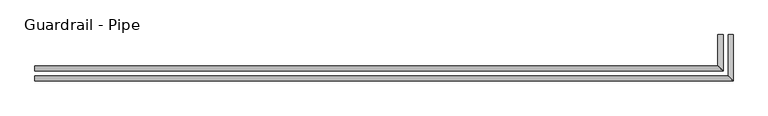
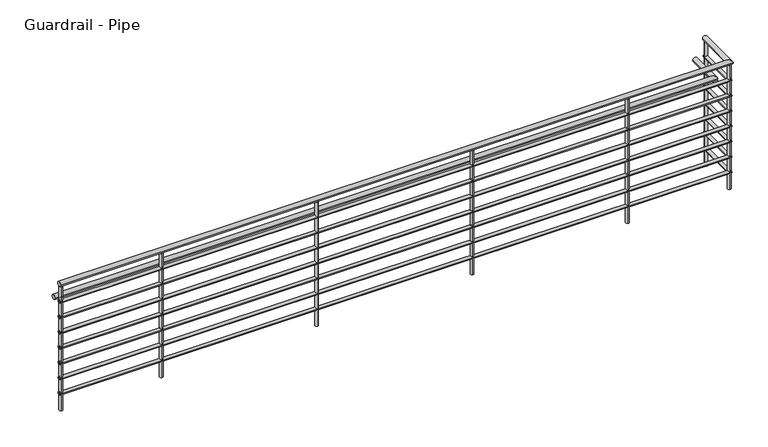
"""IFC4 building model written with IfcOpenShell, lengths in millimetres: railing geometry, Guardrail - Pipe."""

from ifc_helpers import new_model, si_unit, point, frame, frame_2d, origin, place, context, project, spatial, circle_curve, ellipse_curve, trimmed, segment, composite_curve, outline, extrude, source, transform, mapped, element, save
from ifc_brep_helpers import plane_surface, cylinder_surface, advanced_brep


def guardrail_pipe_636c1e23(model_context):
    return source(origin(), model_context, "Body", "SolidModel", [
        advanced_brep(
        [(1730.5560388, -6995.690357, 4705.35), (1730.5560388, -7033.790357, 4705.35), (6969.3060388, -6995.690357, 4705.35), (7007.4060388, -7033.790357, 4705.35), (6969.3060388, -6684.540357, 4705.35), (7007.4060388, -6684.540357, 4705.35)],
        [
            (0, 1, circle_curve(frame((1730.5560388, -7014.740357, 4705.35), z_axis=(-1.0, 0.0, 0.0), x_axis=(0.0, -1.0, 0.0)), 19.05)),
            (1, 0, circle_curve(frame((1730.5560388, -7014.740357, 4705.35), z_axis=(-1.0, 0.0, 0.0), x_axis=(0.0, -1.0, 0.0)), 19.05)),
            (0, 2),
            (2, 3, ellipse_curve(frame((6988.3560388, -7014.740357, 4705.35), z_axis=(-0.7071067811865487, -0.7071067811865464, 0.0), x_axis=(-0.7071067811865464, 0.7071067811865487, 0.0)), 26.9407684, 19.05)),
            (3, 1),
            (3, 2, ellipse_curve(frame((6988.3560388, -7014.740357, 4705.35), z_axis=(-0.7071067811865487, -0.7071067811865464, 0.0), x_axis=(-0.7071067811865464, 0.7071067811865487, 0.0)), 26.9407684, 19.05)),
            (4, 5, circle_curve(frame((6988.3560388, -6684.540357, 4705.35), z_axis=(0.0, 1.0, 0.0), x_axis=(1.0, 0.0, 0.0)), 19.05)),
            (5, 4, circle_curve(frame((6988.3560388, -6684.540357, 4705.35), z_axis=(0.0, 1.0, 0.0), x_axis=(1.0, 0.0, 0.0)), 19.05)),
            (2, 4),
            (5, 3),
        ],
        [
            plane_surface(frame((1730.5560388, -7014.740357, 4724.4), z_axis=(-1.0, 0.0, 0.0), x_axis=(0.0, 1.0, 0.0))),
            cylinder_surface(frame((1730.5560388, -7014.740357, 4705.35), z_axis=(-1.0, 0.0, 0.0), x_axis=(0.0, -1.0, 0.0)), 19.05),
            plane_surface(frame((6988.3560388, -6684.540357, 4724.4), z_axis=(0.0, 1.0, 0.0), x_axis=(0.0, 0.0, 1.0))),
            cylinder_surface(frame((6988.3560388, -7014.740357, 4705.35), z_axis=(0.0, -1.0, 0.0), x_axis=(1.0, 0.0, 0.0)), 19.05),
        ],
        [
            (0, [[1, 2]]),
            (1, [[-1, 3, 4, 5]]),
            (1, [[-2, -5, 6, -3]]),
            (2, [[7, 8]]),
            (3, [[-4, 9, -8, 10]]),
            (3, [[-6, -10, -7, -9]]),
        ],
    ),
        advanced_brep(
        [(1730.5560388, -7002.040357, 4559.3), (1730.5560388, -7027.440357, 4559.3), (6975.6560388, -7002.040357, 4559.3), (7001.0560388, -7027.440357, 4559.3), (6975.6560388, -6684.540357, 4559.3), (7001.0560388, -6684.540357, 4559.3)],
        [
            (0, 1, circle_curve(frame((1730.5560388, -7014.740357, 4559.3), z_axis=(-1.0, 0.0, 0.0), x_axis=(0.0, -1.0, 0.0)), 12.7)),
            (1, 0, circle_curve(frame((1730.5560388, -7014.740357, 4559.3), z_axis=(-1.0, 0.0, 0.0), x_axis=(0.0, -1.0, 0.0)), 12.7)),
            (0, 2),
            (2, 3, ellipse_curve(frame((6988.3560388, -7014.740357, 4559.3), z_axis=(-0.7071067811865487, -0.7071067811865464, 0.0), x_axis=(-0.7071067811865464, 0.7071067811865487, 0.0)), 17.9605122, 12.7)),
            (3, 1),
            (3, 2, ellipse_curve(frame((6988.3560388, -7014.740357, 4559.3), z_axis=(-0.7071067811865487, -0.7071067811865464, 0.0), x_axis=(-0.7071067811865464, 0.7071067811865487, 0.0)), 17.9605122, 12.7)),
            (4, 5, circle_curve(frame((6988.3560388, -6684.540357, 4559.3), z_axis=(0.0, 1.0, 0.0), x_axis=(1.0, 0.0, 0.0)), 12.7)),
            (5, 4, circle_curve(frame((6988.3560388, -6684.540357, 4559.3), z_axis=(0.0, 1.0, 0.0), x_axis=(1.0, 0.0, 0.0)), 12.7)),
            (2, 4),
            (5, 3),
        ],
        [
            plane_surface(frame((1730.5560388, -7014.740357, 4572.0), z_axis=(-1.0, 0.0, 0.0), x_axis=(0.0, 1.0, 0.0))),
            cylinder_surface(frame((1730.5560388, -7014.740357, 4559.3), z_axis=(-1.0, 0.0, 0.0), x_axis=(0.0, -1.0, 0.0)), 12.7),
            plane_surface(frame((6988.3560388, -6684.540357, 4572.0), z_axis=(0.0, 1.0, 0.0), x_axis=(0.0, 0.0, 1.0))),
            cylinder_surface(frame((6988.3560388, -7014.740357, 4559.3), z_axis=(0.0, -1.0, 0.0), x_axis=(1.0, 0.0, 0.0)), 12.7),
        ],
        [
            (0, [[1, 2]]),
            (1, [[-1, 3, 4, 5]]),
            (1, [[-2, -5, 6, -3]]),
            (2, [[7, 8]]),
            (3, [[-4, 9, -8, 10]]),
            (3, [[-6, -10, -7, -9]]),
        ],
    ),
        advanced_brep(
        [(1730.5560388, -6919.490357, 4552.95), (1730.5560388, -6957.590357, 4552.95), (6893.1060388, -6919.490357, 4552.95), (6931.2060388, -6957.590357, 4552.95), (6893.1060388, -6684.540357, 4552.95), (6931.2060388, -6684.540357, 4552.95)],
        [
            (0, 1, circle_curve(frame((1730.5560388, -6938.540357, 4552.95), z_axis=(-1.0, 0.0, 0.0), x_axis=(0.0, -1.0, 0.0)), 19.05)),
            (1, 0, circle_curve(frame((1730.5560388, -6938.540357, 4552.95), z_axis=(-1.0, 0.0, 0.0), x_axis=(0.0, -1.0, 0.0)), 19.05)),
            (0, 2),
            (2, 3, ellipse_curve(frame((6912.1560388, -6938.540357, 4552.95), z_axis=(-0.7071067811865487, -0.7071067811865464, 0.0), x_axis=(-0.7071067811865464, 0.7071067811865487, 0.0)), 26.9407684, 19.05)),
            (3, 1),
            (3, 2, ellipse_curve(frame((6912.1560388, -6938.540357, 4552.95), z_axis=(-0.7071067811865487, -0.7071067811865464, 0.0), x_axis=(-0.7071067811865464, 0.7071067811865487, 0.0)), 26.9407684, 19.05)),
            (4, 5, circle_curve(frame((6912.1560388, -6684.540357, 4552.95), z_axis=(0.0, 1.0, 0.0), x_axis=(1.0, 0.0, 0.0)), 19.05)),
            (5, 4, circle_curve(frame((6912.1560388, -6684.540357, 4552.95), z_axis=(0.0, 1.0, 0.0), x_axis=(1.0, 0.0, 0.0)), 19.05)),
            (2, 4),
            (5, 3),
        ],
        [
            plane_surface(frame((1730.5560388, -6938.540357, 4572.0), z_axis=(-1.0, 0.0, 0.0), x_axis=(0.0, 1.0, 0.0))),
            cylinder_surface(frame((1730.5560388, -6938.540357, 4552.95), z_axis=(-1.0, 0.0, 0.0), x_axis=(0.0, -1.0, 0.0)), 19.05),
            plane_surface(frame((6912.1560388, -6684.540357, 4572.0), z_axis=(0.0, 1.0, 0.0), x_axis=(0.0, 0.0, 1.0))),
            cylinder_surface(frame((6912.1560388, -6938.540357, 4552.95), z_axis=(0.0, -1.0, 0.0), x_axis=(1.0, 0.0, 0.0)), 19.05),
        ],
        [
            (0, [[1, 2]]),
            (1, [[-1, 3, 4, 5]]),
            (1, [[-2, -5, 6, -3]]),
            (2, [[7, 8]]),
            (3, [[-4, 9, -8, 10]]),
            (3, [[-6, -10, -7, -9]]),
        ],
    ),
        advanced_brep(
        [(1730.5560388, -7002.040357, 4432.3), (1730.5560388, -7027.440357, 4432.3), (6975.6560388, -7002.040357, 4432.3), (7001.0560388, -7027.440357, 4432.3), (6975.6560388, -6684.540357, 4432.3), (7001.0560388, -6684.540357, 4432.3)],
        [
            (0, 1, circle_curve(frame((1730.5560388, -7014.740357, 4432.3), z_axis=(-1.0, 0.0, 0.0), x_axis=(0.0, -1.0, 0.0)), 12.7)),
            (1, 0, circle_curve(frame((1730.5560388, -7014.740357, 4432.3), z_axis=(-1.0, 0.0, 0.0), x_axis=(0.0, -1.0, 0.0)), 12.7)),
            (0, 2),
            (2, 3, ellipse_curve(frame((6988.3560388, -7014.740357, 4432.3), z_axis=(-0.7071067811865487, -0.7071067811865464, 0.0), x_axis=(-0.7071067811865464, 0.7071067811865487, 0.0)), 17.9605122, 12.7)),
            (3, 1),
            (3, 2, ellipse_curve(frame((6988.3560388, -7014.740357, 4432.3), z_axis=(-0.7071067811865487, -0.7071067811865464, 0.0), x_axis=(-0.7071067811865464, 0.7071067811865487, 0.0)), 17.9605122, 12.7)),
            (4, 5, circle_curve(frame((6988.3560388, -6684.540357, 4432.3), z_axis=(0.0, 1.0, 0.0), x_axis=(1.0, 0.0, 0.0)), 12.7)),
            (5, 4, circle_curve(frame((6988.3560388, -6684.540357, 4432.3), z_axis=(0.0, 1.0, 0.0), x_axis=(1.0, 0.0, 0.0)), 12.7)),
            (2, 4),
            (5, 3),
        ],
        [
            plane_surface(frame((1730.5560388, -7014.740357, 4445.0), z_axis=(-1.0, 0.0, 0.0), x_axis=(0.0, 1.0, 0.0))),
            cylinder_surface(frame((1730.5560388, -7014.740357, 4432.3), z_axis=(-1.0, 0.0, 0.0), x_axis=(0.0, -1.0, 0.0)), 12.7),
            plane_surface(frame((6988.3560388, -6684.540357, 4445.0), z_axis=(0.0, 1.0, 0.0), x_axis=(0.0, 0.0, 1.0))),
            cylinder_surface(frame((6988.3560388, -7014.740357, 4432.3), z_axis=(0.0, -1.0, 0.0), x_axis=(1.0, 0.0, 0.0)), 12.7),
        ],
        [
            (0, [[1, 2]]),
            (1, [[-1, 3, 4, 5]]),
            (1, [[-2, -5, 6, -3]]),
            (2, [[7, 8]]),
            (3, [[-4, 9, -8, 10]]),
            (3, [[-6, -10, -7, -9]]),
        ],
    ),
        advanced_brep(
        [(1730.5560388, -7002.040357, 4305.3), (1730.5560388, -7027.440357, 4305.3), (6975.6560388, -7002.040357, 4305.3), (7001.0560388, -7027.440357, 4305.3), (6975.6560388, -6684.540357, 4305.3), (7001.0560388, -6684.540357, 4305.3)],
        [
            (0, 1, circle_curve(frame((1730.5560388, -7014.740357, 4305.3), z_axis=(-1.0, 0.0, 0.0), x_axis=(0.0, -1.0, 0.0)), 12.7)),
            (1, 0, circle_curve(frame((1730.5560388, -7014.740357, 4305.3), z_axis=(-1.0, 0.0, 0.0), x_axis=(0.0, -1.0, 0.0)), 12.7)),
            (0, 2),
            (2, 3, ellipse_curve(frame((6988.3560388, -7014.740357, 4305.3), z_axis=(-0.7071067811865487, -0.7071067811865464, 0.0), x_axis=(-0.7071067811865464, 0.7071067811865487, 0.0)), 17.9605122, 12.7)),
            (3, 1),
            (3, 2, ellipse_curve(frame((6988.3560388, -7014.740357, 4305.3), z_axis=(-0.7071067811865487, -0.7071067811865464, 0.0), x_axis=(-0.7071067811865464, 0.7071067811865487, 0.0)), 17.9605122, 12.7)),
            (4, 5, circle_curve(frame((6988.3560388, -6684.540357, 4305.3), z_axis=(0.0, 1.0, 0.0), x_axis=(1.0, 0.0, 0.0)), 12.7)),
            (5, 4, circle_curve(frame((6988.3560388, -6684.540357, 4305.3), z_axis=(0.0, 1.0, 0.0), x_axis=(1.0, 0.0, 0.0)), 12.7)),
            (2, 4),
            (5, 3),
        ],
        [
            plane_surface(frame((1730.5560388, -7014.740357, 4318.0), z_axis=(-1.0, 0.0, 0.0), x_axis=(0.0, 1.0, 0.0))),
            cylinder_surface(frame((1730.5560388, -7014.740357, 4305.3), z_axis=(-1.0, 0.0, 0.0), x_axis=(0.0, -1.0, 0.0)), 12.7),
            plane_surface(frame((6988.3560388, -6684.540357, 4318.0), z_axis=(0.0, 1.0, 0.0), x_axis=(0.0, 0.0, 1.0))),
            cylinder_surface(frame((6988.3560388, -7014.740357, 4305.3), z_axis=(0.0, -1.0, 0.0), x_axis=(1.0, 0.0, 0.0)), 12.7),
        ],
        [
            (0, [[1, 2]]),
            (1, [[-1, 3, 4, 5]]),
            (1, [[-2, -5, 6, -3]]),
            (2, [[7, 8]]),
            (3, [[-4, 9, -8, 10]]),
            (3, [[-6, -10, -7, -9]]),
        ],
    ),
        advanced_brep(
        [(1730.5560388, -7002.040357, 4178.3), (1730.5560388, -7027.440357, 4178.3), (6975.6560388, -7002.040357, 4178.3), (7001.0560388, -7027.440357, 4178.3), (6975.6560388, -6684.540357, 4178.3), (7001.0560388, -6684.540357, 4178.3)],
        [
            (0, 1, circle_curve(frame((1730.5560388, -7014.740357, 4178.3), z_axis=(-1.0, 0.0, 0.0), x_axis=(0.0, -1.0, 0.0)), 12.7)),
            (1, 0, circle_curve(frame((1730.5560388, -7014.740357, 4178.3), z_axis=(-1.0, 0.0, 0.0), x_axis=(0.0, -1.0, 0.0)), 12.7)),
            (0, 2),
            (2, 3, ellipse_curve(frame((6988.3560388, -7014.740357, 4178.3), z_axis=(-0.7071067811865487, -0.7071067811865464, 0.0), x_axis=(-0.7071067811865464, 0.7071067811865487, 0.0)), 17.9605122, 12.7)),
            (3, 1),
            (3, 2, ellipse_curve(frame((6988.3560388, -7014.740357, 4178.3), z_axis=(-0.7071067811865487, -0.7071067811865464, 0.0), x_axis=(-0.7071067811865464, 0.7071067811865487, 0.0)), 17.9605122, 12.7)),
            (4, 5, circle_curve(frame((6988.3560388, -6684.540357, 4178.3), z_axis=(0.0, 1.0, 0.0), x_axis=(1.0, 0.0, 0.0)), 12.7)),
            (5, 4, circle_curve(frame((6988.3560388, -6684.540357, 4178.3), z_axis=(0.0, 1.0, 0.0), x_axis=(1.0, 0.0, 0.0)), 12.7)),
            (2, 4),
            (5, 3),
        ],
        [
            plane_surface(frame((1730.5560388, -7014.740357, 4191.0), z_axis=(-1.0, 0.0, 0.0), x_axis=(0.0, 1.0, 0.0))),
            cylinder_surface(frame((1730.5560388, -7014.740357, 4178.3), z_axis=(-1.0, 0.0, 0.0), x_axis=(0.0, -1.0, 0.0)), 12.7),
            plane_surface(frame((6988.3560388, -6684.540357, 4191.0), z_axis=(0.0, 1.0, 0.0), x_axis=(0.0, 0.0, 1.0))),
            cylinder_surface(frame((6988.3560388, -7014.740357, 4178.3), z_axis=(0.0, -1.0, 0.0), x_axis=(1.0, 0.0, 0.0)), 12.7),
        ],
        [
            (0, [[1, 2]]),
            (1, [[-1, 3, 4, 5]]),
            (1, [[-2, -5, 6, -3]]),
            (2, [[7, 8]]),
            (3, [[-4, 9, -8, 10]]),
            (3, [[-6, -10, -7, -9]]),
        ],
    ),
        advanced_brep(
        [(1730.5560388, -7002.040357, 4051.3), (1730.5560388, -7027.440357, 4051.3), (6975.6560388, -7002.040357, 4051.3), (7001.0560388, -7027.440357, 4051.3), (6975.6560388, -6684.540357, 4051.3), (7001.0560388, -6684.540357, 4051.3)],
        [
            (0, 1, circle_curve(frame((1730.5560388, -7014.740357, 4051.3), z_axis=(-1.0, 0.0, 0.0), x_axis=(0.0, -1.0, 0.0)), 12.7)),
            (1, 0, circle_curve(frame((1730.5560388, -7014.740357, 4051.3), z_axis=(-1.0, 0.0, 0.0), x_axis=(0.0, -1.0, 0.0)), 12.7)),
            (0, 2),
            (2, 3, ellipse_curve(frame((6988.3560388, -7014.740357, 4051.3), z_axis=(-0.7071067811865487, -0.7071067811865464, 0.0), x_axis=(-0.7071067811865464, 0.7071067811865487, 0.0)), 17.9605122, 12.7)),
            (3, 1),
            (3, 2, ellipse_curve(frame((6988.3560388, -7014.740357, 4051.3), z_axis=(-0.7071067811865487, -0.7071067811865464, 0.0), x_axis=(-0.7071067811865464, 0.7071067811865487, 0.0)), 17.9605122, 12.7)),
            (4, 5, circle_curve(frame((6988.3560388, -6684.540357, 4051.3), z_axis=(0.0, 1.0, 0.0), x_axis=(1.0, 0.0, 0.0)), 12.7)),
            (5, 4, circle_curve(frame((6988.3560388, -6684.540357, 4051.3), z_axis=(0.0, 1.0, 0.0), x_axis=(1.0, 0.0, 0.0)), 12.7)),
            (2, 4),
            (5, 3),
        ],
        [
            plane_surface(frame((1730.5560388, -7014.740357, 4064.0), z_axis=(-1.0, 0.0, 0.0), x_axis=(0.0, 1.0, 0.0))),
            cylinder_surface(frame((1730.5560388, -7014.740357, 4051.3), z_axis=(-1.0, 0.0, 0.0), x_axis=(0.0, -1.0, 0.0)), 12.7),
            plane_surface(frame((6988.3560388, -6684.540357, 4064.0), z_axis=(0.0, 1.0, 0.0), x_axis=(0.0, 0.0, 1.0))),
            cylinder_surface(frame((6988.3560388, -7014.740357, 4051.3), z_axis=(0.0, -1.0, 0.0), x_axis=(1.0, 0.0, 0.0)), 12.7),
        ],
        [
            (0, [[1, 2]]),
            (1, [[-1, 3, 4, 5]]),
            (1, [[-2, -5, 6, -3]]),
            (2, [[7, 8]]),
            (3, [[-4, 9, -8, 10]]),
            (3, [[-6, -10, -7, -9]]),
        ],
    ),
        advanced_brep(
        [(1730.5560388, -7002.040357, 3924.3), (1730.5560388, -7027.440357, 3924.3), (6975.6560388, -7002.040357, 3924.3), (7001.0560388, -7027.440357, 3924.3), (6975.6560388, -6684.540357, 3924.3), (7001.0560388, -6684.540357, 3924.3)],
        [
            (0, 1, circle_curve(frame((1730.5560388, -7014.740357, 3924.3), z_axis=(-1.0, 0.0, 0.0), x_axis=(0.0, -1.0, 0.0)), 12.7)),
            (1, 0, circle_curve(frame((1730.5560388, -7014.740357, 3924.3), z_axis=(-1.0, 0.0, 0.0), x_axis=(0.0, -1.0, 0.0)), 12.7)),
            (0, 2),
            (2, 3, ellipse_curve(frame((6988.3560388, -7014.740357, 3924.3), z_axis=(-0.7071067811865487, -0.7071067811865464, 0.0), x_axis=(-0.7071067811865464, 0.7071067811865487, 0.0)), 17.9605122, 12.7)),
            (3, 1),
            (3, 2, ellipse_curve(frame((6988.3560388, -7014.740357, 3924.3), z_axis=(-0.7071067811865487, -0.7071067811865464, 0.0), x_axis=(-0.7071067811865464, 0.7071067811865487, 0.0)), 17.9605122, 12.7)),
            (4, 5, circle_curve(frame((6988.3560388, -6684.540357, 3924.3), z_axis=(0.0, 1.0, 0.0), x_axis=(1.0, 0.0, 0.0)), 12.7)),
            (5, 4, circle_curve(frame((6988.3560388, -6684.540357, 3924.3), z_axis=(0.0, 1.0, 0.0), x_axis=(1.0, 0.0, 0.0)), 12.7)),
            (2, 4),
            (5, 3),
        ],
        [
            plane_surface(frame((1730.5560388, -7014.740357, 3937.0), z_axis=(-1.0, 0.0, 0.0), x_axis=(0.0, 1.0, 0.0))),
            cylinder_surface(frame((1730.5560388, -7014.740357, 3924.3), z_axis=(-1.0, 0.0, 0.0), x_axis=(0.0, -1.0, 0.0)), 12.7),
            plane_surface(frame((6988.3560388, -6684.540357, 3937.0), z_axis=(0.0, 1.0, 0.0), x_axis=(0.0, 0.0, 1.0))),
            cylinder_surface(frame((6988.3560388, -7014.740357, 3924.3), z_axis=(0.0, -1.0, 0.0), x_axis=(1.0, 0.0, 0.0)), 12.7),
        ],
        [
            (0, [[1, 2]]),
            (1, [[-1, 3, 4, 5]]),
            (1, [[-2, -5, 6, -3]]),
            (2, [[7, 8]]),
            (3, [[-4, 9, -8, 10]]),
            (3, [[-6, -10, -7, -9]]),
        ],
    ),
        advanced_brep(
        [(1730.5560388, -7002.040357, 3797.3), (1730.5560388, -7027.440357, 3797.3), (6975.6560388, -7002.040357, 3797.3), (7001.0560388, -7027.440357, 3797.3), (6975.6560388, -6684.540357, 3797.3), (7001.0560388, -6684.540357, 3797.3)],
        [
            (0, 1, circle_curve(frame((1730.5560388, -7014.740357, 3797.3), z_axis=(-1.0, 0.0, 0.0), x_axis=(0.0, -1.0, 0.0)), 12.7)),
            (1, 0, circle_curve(frame((1730.5560388, -7014.740357, 3797.3), z_axis=(-1.0, 0.0, 0.0), x_axis=(0.0, -1.0, 0.0)), 12.7)),
            (0, 2),
            (2, 3, ellipse_curve(frame((6988.3560388, -7014.740357, 3797.3), z_axis=(-0.7071067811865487, -0.7071067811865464, 0.0), x_axis=(-0.7071067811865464, 0.7071067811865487, 0.0)), 17.9605122, 12.7)),
            (3, 1),
            (3, 2, ellipse_curve(frame((6988.3560388, -7014.740357, 3797.3), z_axis=(-0.7071067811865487, -0.7071067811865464, 0.0), x_axis=(-0.7071067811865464, 0.7071067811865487, 0.0)), 17.9605122, 12.7)),
            (4, 5, circle_curve(frame((6988.3560388, -6684.540357, 3797.3), z_axis=(0.0, 1.0, 0.0), x_axis=(1.0, 0.0, 0.0)), 12.7)),
            (5, 4, circle_curve(frame((6988.3560388, -6684.540357, 3797.3), z_axis=(0.0, 1.0, 0.0), x_axis=(1.0, 0.0, 0.0)), 12.7)),
            (2, 4),
            (5, 3),
        ],
        [
            plane_surface(frame((1730.5560388, -7014.740357, 3810.0), z_axis=(-1.0, 0.0, 0.0), x_axis=(0.0, 1.0, 0.0))),
            cylinder_surface(frame((1730.5560388, -7014.740357, 3797.3), z_axis=(-1.0, 0.0, 0.0), x_axis=(0.0, -1.0, 0.0)), 12.7),
            plane_surface(frame((6988.3560388, -6684.540357, 3810.0), z_axis=(0.0, 1.0, 0.0), x_axis=(0.0, 0.0, 1.0))),
            cylinder_surface(frame((6988.3560388, -7014.740357, 3797.3), z_axis=(0.0, -1.0, 0.0), x_axis=(1.0, 0.0, 0.0)), 12.7),
        ],
        [
            (0, [[1, 2]]),
            (1, [[-1, 3, 4, 5]]),
            (1, [[-2, -5, 6, -3]]),
            (2, [[7, 8]]),
            (3, [[-4, 9, -8, 10]]),
            (3, [[-6, -10, -7, -9]]),
        ],
    ),
        extrude(outline(composite_curve([segment(trimmed(circle_curve(frame_2d((6188.2560388, -7014.740357)), 12.7), [point((6188.2560388, -7027.440357))], [point((6188.2560388, -7002.040357))], False, "CARTESIAN"), True, "CONTINUOUS"), segment(trimmed(circle_curve(frame_2d((6188.2560388, -7014.740357)), 12.7), [point((6188.2560388, -7002.040357))], [point((6188.2560388, -7027.440357))], False, "CARTESIAN"), True, "CONTINUOUS")], self_intersect=False)), frame((0.0, 0.0, 3657.6), z_axis=(0.0, 0.0, 1.0), x_axis=(1.0, 0.0, 0.0)), (0.0, 0.0, 1.0), 1028.7),
        extrude(outline(composite_curve([segment(trimmed(circle_curve(frame_2d((4969.0560388, -7014.740357)), 12.7), [point((4969.0560388, -7027.440357))], [point((4969.0560388, -7002.040357))], False, "CARTESIAN"), True, "CONTINUOUS"), segment(trimmed(circle_curve(frame_2d((4969.0560388, -7014.740357)), 12.7), [point((4969.0560388, -7002.040357))], [point((4969.0560388, -7027.440357))], False, "CARTESIAN"), True, "CONTINUOUS")], self_intersect=False)), frame((0.0, 0.0, 3657.6), z_axis=(0.0, 0.0, 1.0), x_axis=(1.0, 0.0, 0.0)), (0.0, 0.0, 1.0), 1028.7),
        extrude(outline(composite_curve([segment(trimmed(circle_curve(frame_2d((3749.8560388, -7014.740357)), 12.7), [point((3749.8560388, -7027.440357))], [point((3749.8560388, -7002.040357))], False, "CARTESIAN"), True, "CONTINUOUS"), segment(trimmed(circle_curve(frame_2d((3749.8560388, -7014.740357)), 12.7), [point((3749.8560388, -7002.040357))], [point((3749.8560388, -7027.440357))], False, "CARTESIAN"), True, "CONTINUOUS")], self_intersect=False)), frame((0.0, 0.0, 3657.6), z_axis=(0.0, 0.0, 1.0), x_axis=(1.0, 0.0, 0.0)), (0.0, 0.0, 1.0), 1028.7),
        extrude(outline(composite_curve([segment(trimmed(circle_curve(frame_2d((2530.6560388, -7014.740357)), 12.7), [point((2530.6560388, -7027.440357))], [point((2530.6560388, -7002.040357))], False, "CARTESIAN"), True, "CONTINUOUS"), segment(trimmed(circle_curve(frame_2d((2530.6560388, -7014.740357)), 12.7), [point((2530.6560388, -7002.040357))], [point((2530.6560388, -7027.440357))], False, "CARTESIAN"), True, "CONTINUOUS")], self_intersect=False)), frame((0.0, 0.0, 3657.6), z_axis=(0.0, 0.0, 1.0), x_axis=(1.0, 0.0, 0.0)), (0.0, 0.0, 1.0), 1028.7),
        extrude(outline(composite_curve([segment(trimmed(circle_curve(frame_2d((6988.3560388, -7014.740357)), 12.7), [point((6988.3560388, -7027.440357))], [point((6988.3560388, -7002.040357))], False, "CARTESIAN"), True, "CONTINUOUS"), segment(trimmed(circle_curve(frame_2d((6988.3560388, -7014.740357)), 12.7), [point((6988.3560388, -7002.040357))], [point((6988.3560388, -7027.440357))], False, "CARTESIAN"), True, "CONTINUOUS")], self_intersect=False)), frame((0.0, 0.0, 3657.6), z_axis=(0.0, 0.0, 1.0), x_axis=(1.0, 0.0, 0.0)), (0.0, 0.0, 1.0), 1028.7),
        extrude(outline(composite_curve([segment(trimmed(circle_curve(frame_2d((6988.3560388, -6696.9219415)), 12.7), [point((7001.0560388, -6696.9219415))], [point((6975.6560388, -6696.9219415))], False, "CARTESIAN"), True, "CONTINUOUS"), segment(trimmed(circle_curve(frame_2d((6988.3560388, -6696.9219415)), 12.7), [point((6975.6560388, -6696.9219415))], [point((7001.0560388, -6696.9219415))], False, "CARTESIAN"), True, "CONTINUOUS")], self_intersect=False)), frame((0.0, 0.0, 3657.6), z_axis=(0.0, 0.0, 1.0), x_axis=(1.0, 0.0, 0.0)), (0.0, 0.0, 1.0), 1028.7),
        extrude(outline(composite_curve([segment(trimmed(circle_curve(frame_2d((1742.9376233, -7014.740357)), 12.7), [point((1742.9376233, -7027.440357))], [point((1742.9376233, -7002.040357))], False, "CARTESIAN"), True, "CONTINUOUS"), segment(trimmed(circle_curve(frame_2d((1742.9376233, -7014.740357)), 12.7), [point((1742.9376233, -7002.040357))], [point((1742.9376233, -7027.440357))], False, "CARTESIAN"), True, "CONTINUOUS")], self_intersect=False)), frame((0.0, 0.0, 3657.6), z_axis=(0.0, 0.0, 1.0), x_axis=(1.0, 0.0, 0.0)), (0.0, 0.0, 1.0), 1028.7),
    ])


if __name__ == "__main__":
    model = new_model("IFC4")
    model_context = context("Model", 3, world=origin())
    ifc_project = project(units=[si_unit("LENGTHUNIT", "METRE", prefix="MILLI")], contexts=[model_context])
    site = spatial("IfcSite", under=ifc_project)
    building = spatial("IfcBuilding", under=site)
    placement = place(None, origin())
    guardrail_pipe_shape = guardrail_pipe_636c1e23(model_context)
    element("IfcRailing", 1, ObjectType="Guardrail - Pipe", at=placement, inside=building, context=model_context, shape_type="MappedRepresentation", body=[
        mapped(guardrail_pipe_shape, transform((0.0, 0.0, 0.0), x_axis=(1.0, 0.0, 0.0), y_axis=(0.0, 1.0, 0.0), z_axis=(0.0, 0.0, 1.0))),
    ])
    save(model, "model.ifc")
